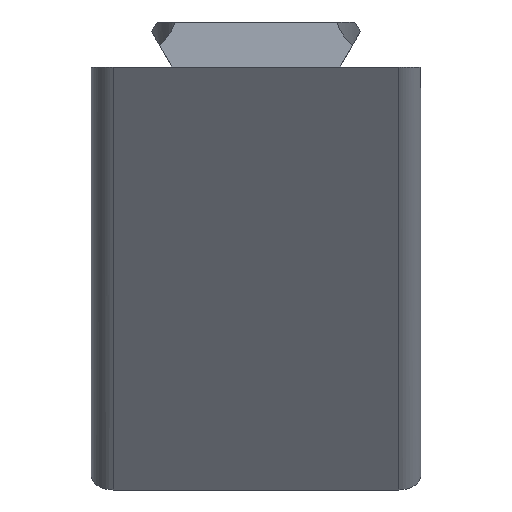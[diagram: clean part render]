
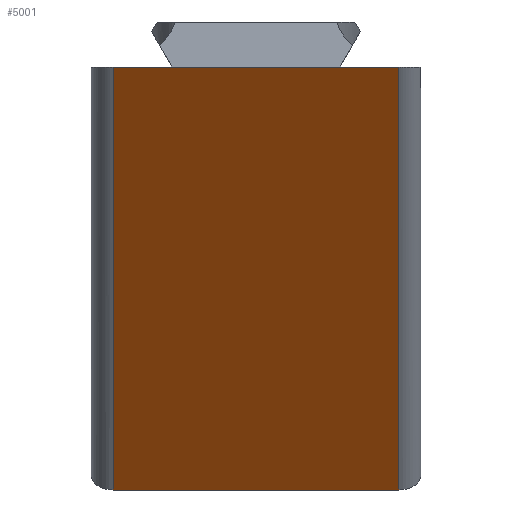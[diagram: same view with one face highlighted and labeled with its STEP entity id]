
A CAD part, left-side view. The second image highlights one B-rep face of the part: STEP entity #5001.
In plain terms, the highlighted planar face has unit normal (-0.777, 0, -0.629).
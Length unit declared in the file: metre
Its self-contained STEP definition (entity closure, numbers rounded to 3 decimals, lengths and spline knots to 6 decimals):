
#801=ORIENTED_EDGE('',*,*,#2087,.T.);
#802=ORIENTED_EDGE('',*,*,#2309,.T.);
#803=ORIENTED_EDGE('',*,*,#2039,.F.);
#804=ORIENTED_EDGE('',*,*,#2310,.T.);
#805=ORIENTED_EDGE('',*,*,#2103,.T.);
#806=ORIENTED_EDGE('',*,*,#2304,.T.);
#2039=EDGE_CURVE('',#2809,#2810,#3322,.T.);
#2087=EDGE_CURVE('',#2858,#2857,#3346,.T.);
#2103=EDGE_CURVE('',#2874,#2873,#3356,.T.);
#2304=EDGE_CURVE('',#2873,#2858,#3440,.T.);
#2309=EDGE_CURVE('',#2857,#2810,#3441,.T.);
#2310=EDGE_CURVE('',#2809,#2874,#3442,.F.);
#2809=VERTEX_POINT('',#6605);
#2810=VERTEX_POINT('',#6607);
#2857=VERTEX_POINT('',#6705);
#2858=VERTEX_POINT('',#6707);
#2873=VERTEX_POINT('',#6737);
#2874=VERTEX_POINT('',#6739);
#3322=LINE('',#6606,#3770);
#3346=LINE('',#6706,#3794);
#3356=LINE('',#6738,#3804);
#3440=LINE('',#7311,#3888);
#3441=LINE('',#7322,#3889);
#3442=LINE('',#7323,#3890);
#3770=VECTOR('',#5580,1.);
#3794=VECTOR('',#5660,1.);
#3804=VECTOR('',#5682,1.);
#3888=VECTOR('',#5850,1.);
#3889=VECTOR('',#5867,1.);
#3890=VECTOR('',#5868,1.);
#4257=EDGE_LOOP('',(#801,#802,#803,#804,#805,#806));
#4577=FACE_BOUND('',#4257,.T.);
#4870=PLANE('',#5364);
#5001=ADVANCED_FACE('',(#4577),#4870,.F.);
#5364=AXIS2_PLACEMENT_3D('',#7321,#5865,#5866);
#5580=DIRECTION('',(0.,1.,0.));
#5660=DIRECTION('',(0.,1.,0.));
#5682=DIRECTION('',(0.,1.,0.));
#5850=DIRECTION('',(0.,1.,0.));
#5865=DIRECTION('',(0.777,0.,0.629));
#5866=DIRECTION('',(0.629,0.,-0.777));
#5867=DIRECTION('',(0.629,0.,-0.777));
#5868=DIRECTION('',(0.629,0.,-0.777));
#6605=CARTESIAN_POINT('',(0.031175,-0.013,-0.038498));
#6606=CARTESIAN_POINT('',(0.031175,-0.015,-0.038498));
#6607=CARTESIAN_POINT('',(0.031175,0.013,-0.038498));
#6705=CARTESIAN_POINT('',(0.,0.013,0.));
#6706=CARTESIAN_POINT('',(0.,-0.015,0.));
#6707=CARTESIAN_POINT('',(0.,0.007695,0.));
#6737=CARTESIAN_POINT('',(0.,-0.007695,0.));
#6738=CARTESIAN_POINT('',(0.,-0.015,0.));
#6739=CARTESIAN_POINT('',(0.,-0.013,0.));
#7311=CARTESIAN_POINT('',(0.,0.,0.));
#7321=CARTESIAN_POINT('',(0.015588,-0.015,-0.019249));
#7322=CARTESIAN_POINT('',(0.015588,0.013,-0.019249));
#7323=CARTESIAN_POINT('',(0.,-0.013,0.));
